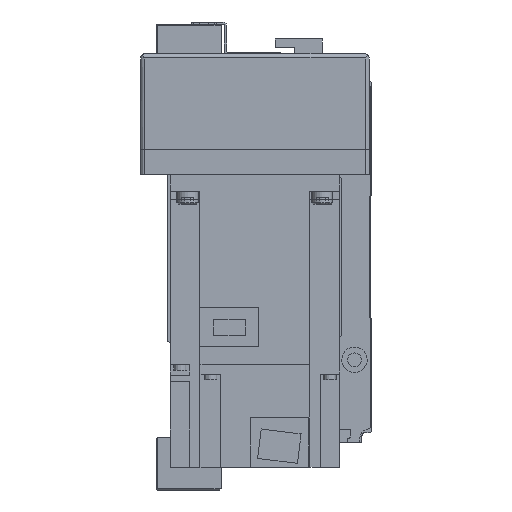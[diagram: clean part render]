
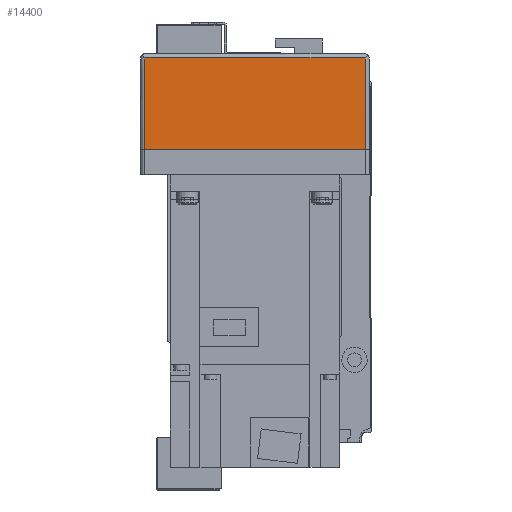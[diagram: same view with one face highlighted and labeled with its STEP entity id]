
A CAD part, left-side view. The second image highlights one B-rep face of the part: STEP entity #14400.
In plain terms, the highlighted planar face has unit normal (-1, 0, 0).
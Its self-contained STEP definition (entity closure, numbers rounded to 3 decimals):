
#2588=ORIENTED_EDGE('',*,*,#5954,.T.);
#2589=ORIENTED_EDGE('',*,*,#5882,.T.);
#2590=ORIENTED_EDGE('',*,*,#5955,.F.);
#2591=ORIENTED_EDGE('',*,*,#5894,.F.);
#5882=EDGE_CURVE('',#7714,#7717,#9224,.T.);
#5894=EDGE_CURVE('',#7724,#7726,#9229,.T.);
#5954=EDGE_CURVE('',#7724,#7714,#9271,.T.);
#5955=EDGE_CURVE('',#7726,#7717,#9272,.T.);
#7714=VERTEX_POINT('',#22589);
#7717=VERTEX_POINT('',#22595);
#7724=VERTEX_POINT('',#22618);
#7726=VERTEX_POINT('',#22621);
#9224=LINE('',#22596,#10537);
#9229=LINE('',#22620,#10542);
#9271=LINE('',#22744,#10584);
#9272=LINE('',#22745,#10585);
#10537=VECTOR('',#18013,1000.);
#10542=VECTOR('',#18040,1000.);
#10584=VECTOR('',#18160,1000.);
#10585=VECTOR('',#18161,1000.);
#11693=EDGE_LOOP('',(#2588,#2589,#2590,#2591));
#12828=FACE_BOUND('',#11693,.T.);
#13795=PLANE('',#15487);
#14400=ADVANCED_FACE('',(#12828),#13795,.T.);
#15487=AXIS2_PLACEMENT_3D('',#22743,#18158,#18159);
#18013=DIRECTION('',(0.,0.,1.));
#18040=DIRECTION('',(0.,0.,1.));
#18158=DIRECTION('',(-1.,0.,0.));
#18159=DIRECTION('',(0.,0.,1.));
#18160=DIRECTION('',(0.,-1.,0.));
#18161=DIRECTION('',(0.,-1.,0.));
#22589=CARTESIAN_POINT('',(-230.,-52.,-55.));
#22595=CARTESIAN_POINT('',(-230.,-52.,-12.));
#22596=CARTESIAN_POINT('',(-230.,-52.,-57.));
#22618=CARTESIAN_POINT('',(-230.,52.,-55.));
#22620=CARTESIAN_POINT('',(-230.,52.,-57.));
#22621=CARTESIAN_POINT('',(-230.,52.,-12.));
#22743=CARTESIAN_POINT('',(-230.,52.,-57.));
#22744=CARTESIAN_POINT('',(-230.,54.,-55.));
#22745=CARTESIAN_POINT('',(-230.,52.,-12.));
